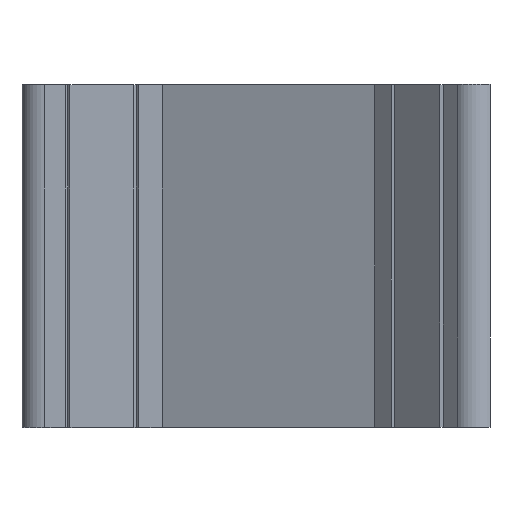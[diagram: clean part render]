
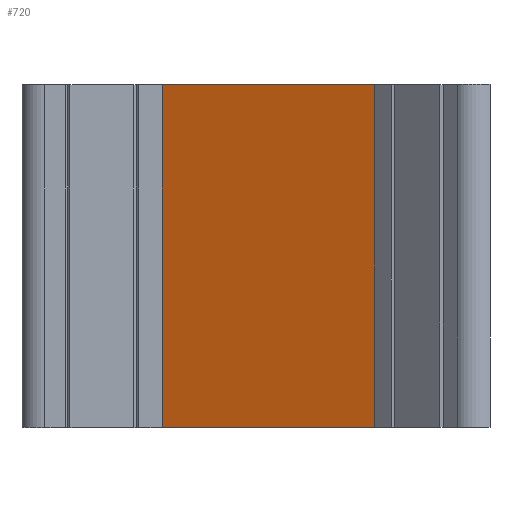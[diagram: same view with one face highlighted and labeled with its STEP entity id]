
A CAD part, top view. The second image highlights one B-rep face of the part: STEP entity #720.
In plain terms, the highlighted planar face has unit normal (-0.383, 0, 0.924).
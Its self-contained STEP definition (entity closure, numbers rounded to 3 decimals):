
#142=ORIENTED_EDGE('',*,*,#292,.T.);
#143=ORIENTED_EDGE('',*,*,#312,.F.);
#144=ORIENTED_EDGE('',*,*,#246,.F.);
#145=ORIENTED_EDGE('',*,*,#305,.T.);
#246=EDGE_CURVE('',#348,#349,#415,.T.);
#292=EDGE_CURVE('',#391,#390,#458,.T.);
#305=EDGE_CURVE('',#348,#391,#471,.T.);
#312=EDGE_CURVE('',#349,#390,#478,.T.);
#348=VERTEX_POINT('',#1010);
#349=VERTEX_POINT('',#1012);
#390=VERTEX_POINT('',#1100);
#391=VERTEX_POINT('',#1102);
#415=LINE('',#1011,#513);
#458=LINE('',#1101,#556);
#471=LINE('',#1125,#569);
#478=LINE('',#1136,#576);
#513=VECTOR('',#818,1000.);
#556=VECTOR('',#871,1000.);
#569=VECTOR('',#888,1000.);
#576=VECTOR('',#903,1000.);
#612=EDGE_LOOP('',(#142,#143,#144,#145));
#650=FACE_BOUND('',#612,.T.);
#686=PLANE('',#773);
#720=ADVANCED_FACE('',(#650),#686,.F.);
#773=AXIS2_PLACEMENT_3D('',#1149,#920,#921);
#818=DIRECTION('',(-0.924,0.,-0.383));
#871=DIRECTION('',(-0.924,0.,-0.383));
#888=DIRECTION('',(0.,1.,0.));
#903=DIRECTION('',(0.,1.,0.));
#920=DIRECTION('',(0.383,0.,-0.924));
#921=DIRECTION('',(-0.924,0.,-0.383));
#1010=CARTESIAN_POINT('',(17.15,-37.5,24.221));
#1011=CARTESIAN_POINT('',(17.15,-37.5,24.221));
#1012=CARTESIAN_POINT('',(-29.254,-37.5,5.));
#1100=CARTESIAN_POINT('',(-29.254,37.5,5.));
#1101=CARTESIAN_POINT('',(17.15,37.5,24.221));
#1102=CARTESIAN_POINT('',(17.15,37.5,24.221));
#1125=CARTESIAN_POINT('',(17.15,-37.5,24.221));
#1136=CARTESIAN_POINT('',(-29.254,-37.5,5.));
#1149=CARTESIAN_POINT('',(17.15,-37.5,24.221));
